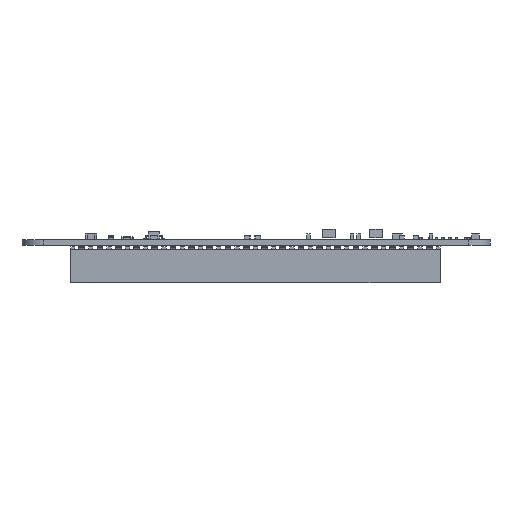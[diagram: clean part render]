
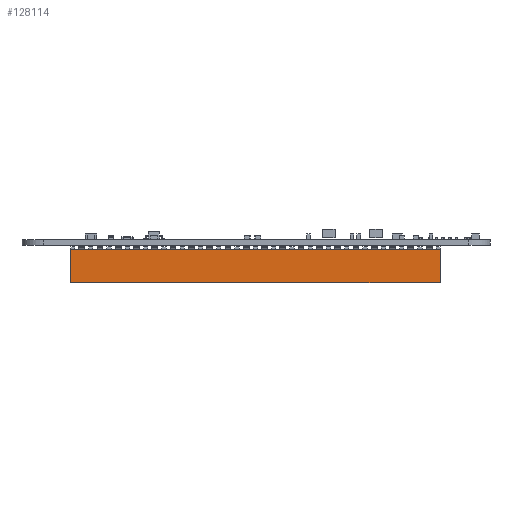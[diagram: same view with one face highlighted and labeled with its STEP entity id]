
A CAD part, front view. The second image highlights one B-rep face of the part: STEP entity #128114.
In plain terms, the highlighted planar face has unit normal (0, -1, 0) as drawn and (0, 0, -1) by its records, which use the part's own axes.
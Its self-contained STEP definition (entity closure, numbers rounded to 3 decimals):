
#87921 = PLANE('',#87922);
#87922 = AXIS2_PLACEMENT_3D('',#87923,#87924,#87925);
#87923 = CARTESIAN_POINT('',(25.65,2.52,0.));
#87924 = DIRECTION('',(1.,0.,0.));
#87925 = DIRECTION('',(0.,0.,-1.));
#87977 = PLANE('',#87978);
#87978 = AXIS2_PLACEMENT_3D('',#87979,#87980,#87981);
#87979 = CARTESIAN_POINT('',(-25.65,2.52,0.)
  );
#87980 = DIRECTION('',(1.,0.,0.));
#87981 = DIRECTION('',(0.,0.,-1.));
#90392 = PLANE('',#90393);
#90393 = AXIS2_PLACEMENT_3D('',#90394,#90395,#90396);
#90394 = CARTESIAN_POINT('',(-25.65,0.4,-2.6));
#90395 = DIRECTION('',(0.,-1.,0.));
#90396 = DIRECTION('',(0.,0.,-1.));
#102473 = EDGE_CURVE('',#102474,#102476,#102478,.T.);
#102474 = VERTEX_POINT('',#102475);
#102475 = CARTESIAN_POINT('',(-25.65,0.4,-2.6));
#102476 = VERTEX_POINT('',#102477);
#102477 = CARTESIAN_POINT('',(25.65,0.4,-2.6));
#102478 = SURFACE_CURVE('',#102479,(#102483,#102490),.PCURVE_S1.);
#102479 = LINE('',#102480,#102481);
#102480 = CARTESIAN_POINT('',(-25.65,0.4,-2.6));
#102481 = VECTOR('',#102482,1.);
#102482 = DIRECTION('',(1.,0.,0.));
#102483 = PCURVE('',#90392,#102484);
#102484 = DEFINITIONAL_REPRESENTATION('',(#102485),#102489);
#102485 = LINE('',#102486,#102487);
#102486 = CARTESIAN_POINT('',(0.,0.));
#102487 = VECTOR('',#102488,1.);
#102488 = DIRECTION('',(0.,1.));
#102489 = ( GEOMETRIC_REPRESENTATION_CONTEXT(2) 
PARAMETRIC_REPRESENTATION_CONTEXT() REPRESENTATION_CONTEXT('2D SPACE',''
  ) );
#102490 = PCURVE('',#102491,#102496);
#102491 = PLANE('',#102492);
#102492 = AXIS2_PLACEMENT_3D('',#102493,#102494,#102495);
#102493 = CARTESIAN_POINT('',(-25.65,5.,-2.6));
#102494 = DIRECTION('',(0.,0.,-1.));
#102495 = DIRECTION('',(0.,1.,0.));
#102496 = DEFINITIONAL_REPRESENTATION('',(#102497),#102501);
#102497 = LINE('',#102498,#102499);
#102498 = CARTESIAN_POINT('',(-4.6,0.));
#102499 = VECTOR('',#102500,1.);
#102500 = DIRECTION('',(0.,1.));
#102501 = ( GEOMETRIC_REPRESENTATION_CONTEXT(2) 
PARAMETRIC_REPRESENTATION_CONTEXT() REPRESENTATION_CONTEXT('2D SPACE',''
  ) );
#103575 = PLANE('',#103576);
#103576 = AXIS2_PLACEMENT_3D('',#103577,#103578,#103579);
#103577 = CARTESIAN_POINT('',(-25.65,5.,2.6));
#103578 = DIRECTION('',(0.,1.,0.));
#103579 = DIRECTION('',(0.,0.,1.));
#128048 = VERTEX_POINT('',#128049);
#128049 = CARTESIAN_POINT('',(25.65,5.,-2.6));
#128070 = EDGE_CURVE('',#128071,#128048,#128073,.T.);
#128071 = VERTEX_POINT('',#128072);
#128072 = CARTESIAN_POINT('',(-25.65,5.,-2.6));
#128073 = SURFACE_CURVE('',#128074,(#128078,#128085),.PCURVE_S1.);
#128074 = LINE('',#128075,#128076);
#128075 = CARTESIAN_POINT('',(-25.65,5.,-2.6));
#128076 = VECTOR('',#128077,1.);
#128077 = DIRECTION('',(1.,0.,0.));
#128078 = PCURVE('',#103575,#128079);
#128079 = DEFINITIONAL_REPRESENTATION('',(#128080),#128084);
#128080 = LINE('',#128081,#128082);
#128081 = CARTESIAN_POINT('',(-5.2,0.));
#128082 = VECTOR('',#128083,1.);
#128083 = DIRECTION('',(0.,1.));
#128084 = ( GEOMETRIC_REPRESENTATION_CONTEXT(2) 
PARAMETRIC_REPRESENTATION_CONTEXT() REPRESENTATION_CONTEXT('2D SPACE',''
  ) );
#128085 = PCURVE('',#102491,#128086);
#128086 = DEFINITIONAL_REPRESENTATION('',(#128087),#128091);
#128087 = LINE('',#128088,#128089);
#128088 = CARTESIAN_POINT('',(0.,0.));
#128089 = VECTOR('',#128090,1.);
#128090 = DIRECTION('',(0.,1.));
#128091 = ( GEOMETRIC_REPRESENTATION_CONTEXT(2) 
PARAMETRIC_REPRESENTATION_CONTEXT() REPRESENTATION_CONTEXT('2D SPACE',''
  ) );
#128114 = ADVANCED_FACE('',(#128115),#102491,.T.);
#128115 = FACE_BOUND('',#128116,.T.);
#128116 = EDGE_LOOP('',(#128117,#128138,#128139,#128160));
#128117 = ORIENTED_EDGE('',*,*,#128118,.T.);
#128118 = EDGE_CURVE('',#128048,#102476,#128119,.T.);
#128119 = SURFACE_CURVE('',#128120,(#128124,#128131),.PCURVE_S1.);
#128120 = LINE('',#128121,#128122);
#128121 = CARTESIAN_POINT('',(25.65,0.4,-2.6));
#128122 = VECTOR('',#128123,1.);
#128123 = DIRECTION('',(0.,-1.,0.));
#128124 = PCURVE('',#102491,#128125);
#128125 = DEFINITIONAL_REPRESENTATION('',(#128126),#128130);
#128126 = LINE('',#128127,#128128);
#128127 = CARTESIAN_POINT('',(-4.6,51.3));
#128128 = VECTOR('',#128129,1.);
#128129 = DIRECTION('',(-1.,0.));
#128130 = ( GEOMETRIC_REPRESENTATION_CONTEXT(2) 
PARAMETRIC_REPRESENTATION_CONTEXT() REPRESENTATION_CONTEXT('2D SPACE',''
  ) );
#128131 = PCURVE('',#87921,#128132);
#128132 = DEFINITIONAL_REPRESENTATION('',(#128133),#128137);
#128133 = LINE('',#128134,#128135);
#128134 = CARTESIAN_POINT('',(2.6,-2.12));
#128135 = VECTOR('',#128136,1.);
#128136 = DIRECTION('',(0.,-1.));
#128137 = ( GEOMETRIC_REPRESENTATION_CONTEXT(2) 
PARAMETRIC_REPRESENTATION_CONTEXT() REPRESENTATION_CONTEXT('2D SPACE',''
  ) );
#128138 = ORIENTED_EDGE('',*,*,#102473,.F.);
#128139 = ORIENTED_EDGE('',*,*,#128140,.T.);
#128140 = EDGE_CURVE('',#102474,#128071,#128141,.T.);
#128141 = SURFACE_CURVE('',#128142,(#128146,#128153),.PCURVE_S1.);
#128142 = LINE('',#128143,#128144);
#128143 = CARTESIAN_POINT('',(-25.65,0.4,-2.6));
#128144 = VECTOR('',#128145,1.);
#128145 = DIRECTION('',(0.,1.,0.));
#128146 = PCURVE('',#102491,#128147);
#128147 = DEFINITIONAL_REPRESENTATION('',(#128148),#128152);
#128148 = LINE('',#128149,#128150);
#128149 = CARTESIAN_POINT('',(-4.6,0.));
#128150 = VECTOR('',#128151,1.);
#128151 = DIRECTION('',(1.,0.));
#128152 = ( GEOMETRIC_REPRESENTATION_CONTEXT(2) 
PARAMETRIC_REPRESENTATION_CONTEXT() REPRESENTATION_CONTEXT('2D SPACE',''
  ) );
#128153 = PCURVE('',#87977,#128154);
#128154 = DEFINITIONAL_REPRESENTATION('',(#128155),#128159);
#128155 = LINE('',#128156,#128157);
#128156 = CARTESIAN_POINT('',(2.6,-2.12));
#128157 = VECTOR('',#128158,1.);
#128158 = DIRECTION('',(0.,1.));
#128159 = ( GEOMETRIC_REPRESENTATION_CONTEXT(2) 
PARAMETRIC_REPRESENTATION_CONTEXT() REPRESENTATION_CONTEXT('2D SPACE',''
  ) );
#128160 = ORIENTED_EDGE('',*,*,#128070,.T.);
